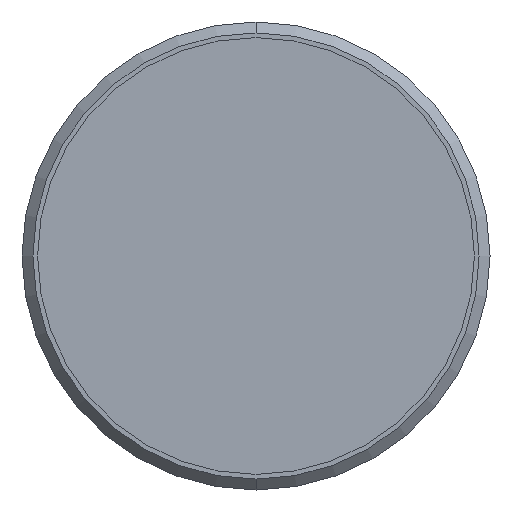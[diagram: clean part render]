
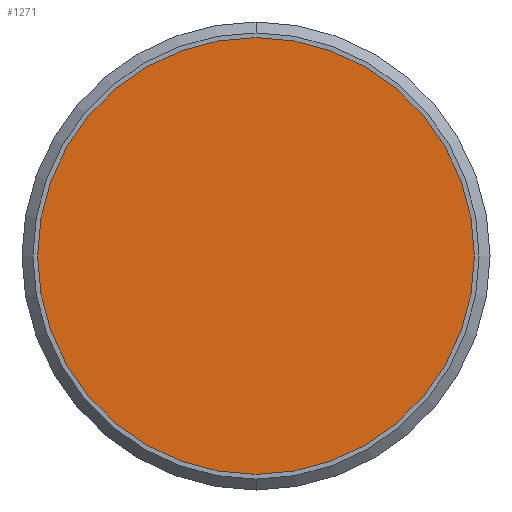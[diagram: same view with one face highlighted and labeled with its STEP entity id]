
A CAD part, front view. The second image highlights one B-rep face of the part: STEP entity #1271.
In plain terms, the highlighted planar face has unit normal (0, -1, 0).
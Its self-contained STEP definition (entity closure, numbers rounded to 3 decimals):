
#69 = ORIENTED_EDGE ( 'NONE', *, *, #413, .F. ) ;
#129 = DIRECTION ( 'NONE',  ( 0., 0., 1. ) ) ;
#266 = VERTEX_POINT ( 'NONE', #1238 ) ;
#270 = CIRCLE ( 'NONE', #686, 14. ) ;
#366 = AXIS2_PLACEMENT_3D ( 'NONE', #744, #1281, #1072 ) ;
#393 = EDGE_CURVE ( 'NONE', #1264, #266, #647, .T. ) ;
#413 = EDGE_CURVE ( 'NONE', #266, #1264, #270, .T. ) ;
#545 = ORIENTED_EDGE ( 'NONE', *, *, #393, .F. ) ;
#609 = AXIS2_PLACEMENT_3D ( 'NONE', #632, #1363, #1378 ) ;
#632 = CARTESIAN_POINT ( 'NONE',  ( 0., 0., 0. ) ) ;
#647 = CIRCLE ( 'NONE', #609, 14. ) ;
#686 = AXIS2_PLACEMENT_3D ( 'NONE', #750, #859, #129 ) ;
#737 = EDGE_LOOP ( 'NONE', ( #69, #545 ) ) ;
#744 = CARTESIAN_POINT ( 'NONE',  ( 0., 0., 0. ) ) ;
#750 = CARTESIAN_POINT ( 'NONE',  ( 0., 0., 0. ) ) ;
#859 = DIRECTION ( 'NONE',  ( 0., 1., 0. ) ) ;
#868 = CARTESIAN_POINT ( 'NONE',  ( 0., 0., 14. ) ) ;
#977 = PLANE ( 'NONE',  #366 ) ;
#1072 = DIRECTION ( 'NONE',  ( 0., 0., 1. ) ) ;
#1079 = FACE_OUTER_BOUND ( 'NONE', #737, .T. ) ;
#1238 = CARTESIAN_POINT ( 'NONE',  ( 0., 0., -14. ) ) ;
#1264 = VERTEX_POINT ( 'NONE', #868 ) ;
#1271 = ADVANCED_FACE ( 'NONE', ( #1079 ), #977, .F. ) ;
#1281 = DIRECTION ( 'NONE',  ( 0., 1., 0. ) ) ;
#1363 = DIRECTION ( 'NONE',  ( 0., 1., 0. ) ) ;
#1378 = DIRECTION ( 'NONE',  ( 0., 0., 1. ) ) ;
